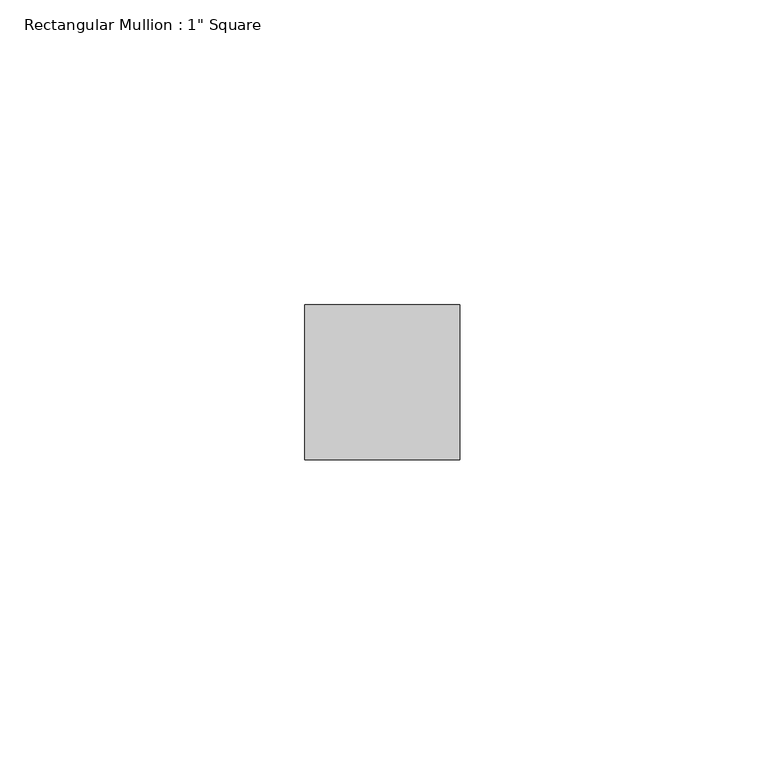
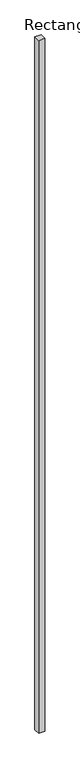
"""IFC4 building model written with IfcOpenShell, lengths in millimetres: member geometry."""

import ifcopenshell
import ifcopenshell.guid

model = None  # the IFC model being written
_history = None  # IfcOwnerHistory: only IFC2X3 demands one
_inside = {}  # id of a spatial element -> (the spatial element, [elements in it])
_under = {}  # id of a project, library or spatial element -> (it, [spatial elements below it])
_declared = {}  # id of a project -> (the project, [libraries it declares])
_typed = {}  # id of a type object -> (the type object, [elements of that type])
_made_of = {}  # id of a material, layer set ... -> (it, [elements and type objects made of it])


def new_model(schema):
    """Start an empty IFC model of exactly this schema.

    Asked for "IFC4X3", IfcOpenShell would pick the latest addendum, in which some entities
    have other attributes; the version numbers below select the first issue.
    IFC2X3 requires an IfcOwnerHistory on every rooted entity: one is made here for all.
    """
    global model, _history
    if schema == "IFC4X3":
        model = ifcopenshell.file(schema_version=(4, 3, 0, 0))
    else:
        model = ifcopenshell.file(schema=schema)
    _inside.clear()
    _under.clear()
    _declared.clear()
    _typed.clear()
    _made_of.clear()
    _history = None
    if model.schema == "IFC2X3":
        org = make("IfcOrganization", Name="unknown")
        user = make(
            "IfcPersonAndOrganization",
            ThePerson=make("IfcPerson", FamilyName="unknown"),
            TheOrganization=org,
        )
        app = make(
            "IfcApplication",
            ApplicationDeveloper=org,
            Version="unknown",
            ApplicationFullName="unknown",
            ApplicationIdentifier="unknown",
        )
        _history = make(
            "IfcOwnerHistory",
            OwningUser=user,
            OwningApplication=app,
            ChangeAction="ADDED",
            CreationDate=0,
        )
    return model


def make(cls, **values):
    """One entity of the class cls with the attributes given. An attribute that is None is left unset."""
    return model.create_entity(
        cls, **{name: value for name, value in values.items() if value is not None}
    )


def rooted(cls, **values):
    """An entity with a GlobalId (a new one), such as an element, a storey or a relation."""
    return make(cls, GlobalId=ifcopenshell.guid.new(), OwnerHistory=_history, **values)


def si_unit(unit_type, name, prefix=None):
    """IfcSIUnit, for example si_unit("LENGTHUNIT", "METRE", prefix="MILLI")."""
    return make("IfcSIUnit", UnitType=unit_type, Prefix=prefix, Name=name)


def assignment(units):
    """IfcUnitAssignment: the units of a project."""
    return None if units is None else make("IfcUnitAssignment", Units=units)


def point(xyz):
    """IfcCartesianPoint."""
    return None if xyz is None else make("IfcCartesianPoint", Coordinates=xyz)


def direction(xyz):
    """IfcDirection."""
    return None if xyz is None else make("IfcDirection", DirectionRatios=xyz)


def frame(location, z_axis=None, x_axis=None):
    """IfcAxis2Placement3D, a coordinate frame: its origin and axes. An axis left out is left unset."""
    return make(
        "IfcAxis2Placement3D",
        Location=point(location),
        Axis=direction(z_axis),
        RefDirection=direction(x_axis),
    )


def origin():
    """The frame at (0, 0, 0) with its axes left unset."""
    return frame((0.0, 0.0, 0.0))


def place(relative_to, where):
    """IfcLocalPlacement: puts the frame where relative to a parent placement (None: the world)."""
    return make(
        "IfcLocalPlacement", PlacementRelTo=relative_to, RelativePlacement=where
    )


def context(
    kind, dimensions, precision=None, world=None, true_north=None, identifier=None
):
    """IfcGeometricRepresentationContext, for example the 3D "Model" context."""
    return make(
        "IfcGeometricRepresentationContext",
        ContextIdentifier=identifier,
        ContextType=kind,
        CoordinateSpaceDimension=dimensions,
        Precision=precision,
        WorldCoordinateSystem=world,
        TrueNorth=true_north,
    )


def project(units=None, contexts=None):
    """IfcProject with its units and contexts."""
    return rooted(
        "IfcProject",
        Name="project",
        RepresentationContexts=contexts,
        UnitsInContext=assignment(units),
    )


def spatial(cls, under=None, at=None, **own):
    """A site, building, storey or space (cls), placed at a placement, below another one or the project."""
    s = rooted(cls, ObjectPlacement=at, **own)
    if under is not None:
        _under.setdefault(under.id(), (under, []))[1].append(s)
    return s


def polyline(points):
    """IfcPolyline through the points."""
    return make("IfcPolyline", Points=[point(p) for p in points])


def outline(outer, holes=None, kind="AREA"):
    """IfcArbitraryClosedProfileDef: a profile drawn as a closed curve; with holes, ...WithVoids."""
    if holes is None:
        return make("IfcArbitraryClosedProfileDef", ProfileType=kind, OuterCurve=outer)
    return make(
        "IfcArbitraryProfileDefWithVoids",
        ProfileType=kind,
        OuterCurve=outer,
        InnerCurves=holes,
    )


def extrude(swept, where, along, depth):
    """IfcExtrudedAreaSolid: the profile swept, set in the frame where, extruded along a direction by depth."""
    return make(
        "IfcExtrudedAreaSolid",
        SweptArea=swept,
        Position=where,
        ExtrudedDirection=direction(along),
        Depth=depth,
    )


def shape(context_of_items, identifier, shape_type, items):
    """IfcShapeRepresentation: the items that make up one representation, for example the "Body"."""
    return make(
        "IfcShapeRepresentation",
        ContextOfItems=context_of_items,
        RepresentationIdentifier=identifier,
        RepresentationType=shape_type,
        Items=items,
    )


def source(mapping_origin, context_of_items, identifier, shape_type, items):
    """IfcRepresentationMap: a shape defined once, which mapped items show again and again."""
    return make(
        "IfcRepresentationMap",
        MappingOrigin=mapping_origin,
        MappedRepresentation=shape(context_of_items, identifier, shape_type, items),
    )


def transform(
    local_origin,
    x_axis=None,
    y_axis=None,
    z_axis=None,
    scale=None,
    scale2=None,
    scale3=None,
    uniform=True,
):
    """IfcCartesianTransformationOperator3D, or its non-uniform kind. x_axis, y_axis, z_axis: its Axis1, 2, 3."""
    if uniform:
        return make(
            "IfcCartesianTransformationOperator3D",
            Axis1=direction(x_axis),
            Axis2=direction(y_axis),
            LocalOrigin=point(local_origin),
            Scale=scale,
            Axis3=direction(z_axis),
        )
    return make(
        "IfcCartesianTransformationOperator3DnonUniform",
        Axis1=direction(x_axis),
        Axis2=direction(y_axis),
        LocalOrigin=point(local_origin),
        Scale=scale,
        Axis3=direction(z_axis),
        Scale2=scale2,
        Scale3=scale3,
    )


def mapped(mapping_source, mapping_target):
    """IfcMappedItem: shows the shape of a source again, moved by a transform."""
    return make(
        "IfcMappedItem", MappingSource=mapping_source, MappingTarget=mapping_target
    )


def made_of(thing, what):
    """Note that an element or type object is made of a material, layer set ...; save() writes the relation."""
    if what is not None:
        _made_of.setdefault(what.id(), (what, []))[1].append(thing)
    return thing


def element(
    cls,
    number,
    at=None,
    inside=None,
    cuts=None,
    type_object=None,
    material=None,
    context=None,
    identifier="Body",
    shape_type=None,
    held_by="IfcProductDefinitionShape",
    body=None,
    shapes=None,
    **own,
):
    """One element of the class cls, such as IfcWall. Its Tag is "e" and its number.

    at: its placement. inside: the storey or other place that contains it. cuts: it is an
    opening in that element (IfcRelVoidsElement). A single representation is given by context,
    identifier, shape_type and body (its items); several are given by shapes. held_by: the class
    of the entity that holds the representations. save() writes the other relations.
    """
    e = rooted(cls, Tag="e%d" % number, ObjectPlacement=at, **own)
    if body is not None:
        shapes = [shape(context, identifier, shape_type, body)]
    if shapes is not None:
        e.Representation = make(held_by, Representations=shapes)
    if inside is not None:
        _inside.setdefault(inside.id(), (inside, []))[1].append(e)
    if cuts is not None:
        rooted(
            "IfcRelVoidsElement", RelatingBuildingElement=cuts, RelatedOpeningElement=e
        )
    if type_object is not None:
        _typed.setdefault(type_object.id(), (type_object, []))[1].append(e)
    return made_of(e, material)


def aggregate(whole, parts):
    """IfcRelAggregates: a whole, such as a stair, and the parts it consists of."""
    return rooted("IfcRelAggregates", RelatingObject=whole, RelatedObjects=parts)


def save(model, path):
    """Write the relations noted so far, then the file.

    IfcRelAggregates (storeys below a building ...), IfcRelContainedInSpatialStructure (elements
    in a storey), IfcRelDefinesByType, IfcRelAssociatesMaterial and IfcRelDeclares: one each for
    every whole, place, type object, material and project.
    """
    for whole, parts in _under.values():
        aggregate(whole, parts)
    for where, things in _inside.values():
        rooted(
            "IfcRelContainedInSpatialStructure",
            RelatedElements=things,
            RelatingStructure=where,
        )
    for kind, things in _typed.values():
        rooted("IfcRelDefinesByType", RelatedObjects=things, RelatingType=kind)
    for what, things in _made_of.values():
        rooted("IfcRelAssociatesMaterial", RelatedObjects=things, RelatingMaterial=what)
    for by, libraries in _declared.values():
        rooted("IfcRelDeclares", RelatingContext=by, RelatedDefinitions=libraries)
    model.write(path)


def member_1e27593e(model_context):
    return source(origin(), model_context, "Body", "SweptSolid", [
        extrude(outline(polyline([(0.0, 12.7), (0.0, -12.7), (-25.4, -12.7), (-25.4, 12.7), (0.0, 12.7)])), frame((0.0, 0.0, -2979.2660567), z_axis=(0.0, 0.0, 1.0), x_axis=(1.0, 0.0, 0.0)), (0.0, 0.0, 1.0), 2979.2660567),
    ])


if __name__ == "__main__":
    model = new_model("IFC4")
    model_context = context("Model", 3, world=origin())
    ifc_project = project(units=[si_unit("LENGTHUNIT", "METRE", prefix="MILLI")], contexts=[model_context])
    site = spatial("IfcSite", under=ifc_project)
    building = spatial("IfcBuilding", under=site)
    placement = place(None, origin())
    member_shape = member_1e27593e(model_context)
    element("IfcMember", 1, ObjectType="Rectangular Mullion : 1\" Square", at=placement, inside=building, context=model_context, shape_type="MappedRepresentation", body=[
        mapped(member_shape, transform((0.0, 0.0, 0.0), x_axis=(1.0, 0.0, 0.0), y_axis=(0.0, 1.0, 0.0), z_axis=(0.0, 0.0, 1.0))),
    ])
    save(model, "model.ifc")
